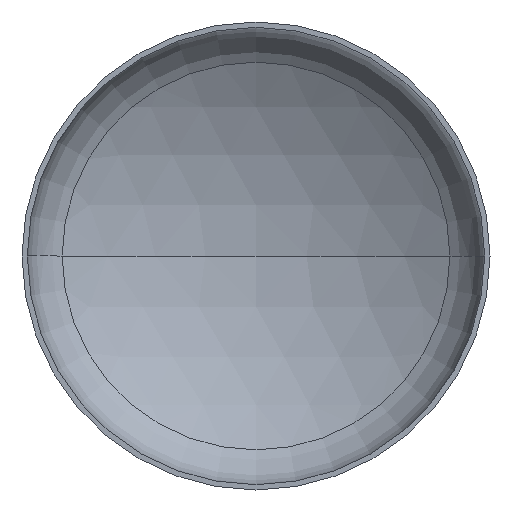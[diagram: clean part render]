
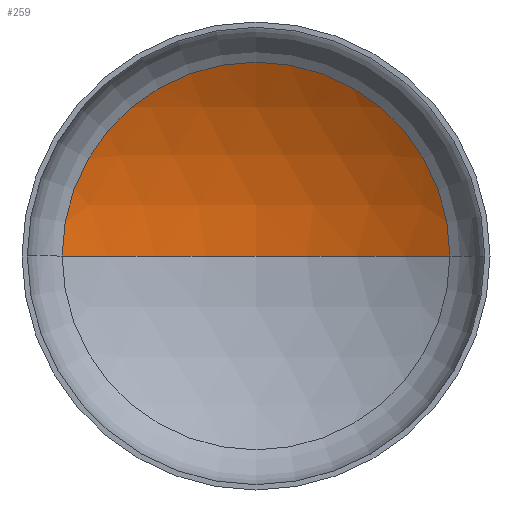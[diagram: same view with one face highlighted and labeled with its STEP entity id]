
A CAD part, front view. The second image highlights one B-rep face of the part: STEP entity #259.
In plain terms, the highlighted spherical face has radius 5600 mm.
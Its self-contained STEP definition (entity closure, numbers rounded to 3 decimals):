
#19 = DIRECTION ( 'NONE',  ( 0., 0., -1. ) ) ;
#24 = CIRCLE ( 'NONE', #87, 2899.115 ) ;
#26 = DIRECTION ( 'NONE',  ( -1., 0., 0. ) ) ;
#43 = VERTEX_POINT ( 'NONE', #237 ) ;
#49 = AXIS2_PLACEMENT_3D ( 'NONE', #242, #376, #26 ) ;
#54 = ORIENTED_EDGE ( 'NONE', *, *, #146, .T. ) ;
#55 = DIRECTION ( 'NONE',  ( 0., -1., 0. ) ) ;
#57 = DIRECTION ( 'NONE',  ( 1., 0., 0. ) ) ;
#73 = DIRECTION ( 'NONE',  ( 1., 0., 0. ) ) ;
#77 = AXIS2_PLACEMENT_3D ( 'NONE', #386, #19, #127 ) ;
#83 = AXIS2_PLACEMENT_3D ( 'NONE', #125, #343, #57 ) ;
#87 = AXIS2_PLACEMENT_3D ( 'NONE', #102, #55, #73 ) ;
#102 = CARTESIAN_POINT ( 'NONE',  ( 0., 1044.008, 0. ) ) ;
#107 = VERTEX_POINT ( 'NONE', #289 ) ;
#111 = VERTEX_POINT ( 'NONE', #288 ) ;
#125 = CARTESIAN_POINT ( 'NONE',  ( 0., -3747.144, 0. ) ) ;
#127 = DIRECTION ( 'NONE',  ( -1., 0., 0. ) ) ;
#131 = EDGE_LOOP ( 'NONE', ( #383, #54, #390 ) ) ;
#143 = EDGE_CURVE ( 'NONE', #43, #111, #24, .T. ) ;
#146 = EDGE_CURVE ( 'NONE', #107, #43, #179, .T. ) ;
#147 = EDGE_CURVE ( 'NONE', #107, #111, #307, .T. ) ;
#179 = CIRCLE ( 'NONE', #77, 5600. ) ;
#237 = CARTESIAN_POINT ( 'NONE',  ( 2899.115, 1044.008, 0. ) ) ;
#242 = CARTESIAN_POINT ( 'NONE',  ( 0., -3747.144, 0. ) ) ;
#259 = ADVANCED_FACE ( 'NONE', ( #400 ), #280, .F. ) ;
#280 = SPHERICAL_SURFACE ( 'NONE', #49, 5600. ) ;
#288 = CARTESIAN_POINT ( 'NONE',  ( -2899.115, 1044.008, 0. ) ) ;
#289 = CARTESIAN_POINT ( 'NONE',  ( 0., 1852.856, 0. ) ) ;
#307 = CIRCLE ( 'NONE', #83, 5600. ) ;
#343 = DIRECTION ( 'NONE',  ( 0., 0., 1. ) ) ;
#376 = DIRECTION ( 'NONE',  ( 0., 0., -1. ) ) ;
#383 = ORIENTED_EDGE ( 'NONE', *, *, #147, .F. ) ;
#386 = CARTESIAN_POINT ( 'NONE',  ( 0., -3747.144, 0. ) ) ;
#390 = ORIENTED_EDGE ( 'NONE', *, *, #143, .T. ) ;
#400 = FACE_OUTER_BOUND ( 'NONE', #131, .T. ) ;
